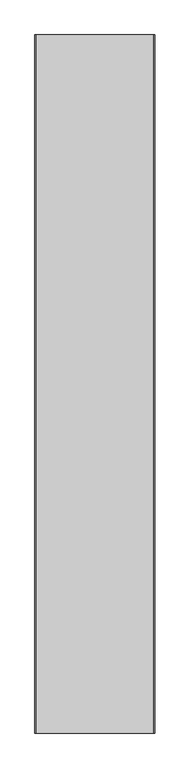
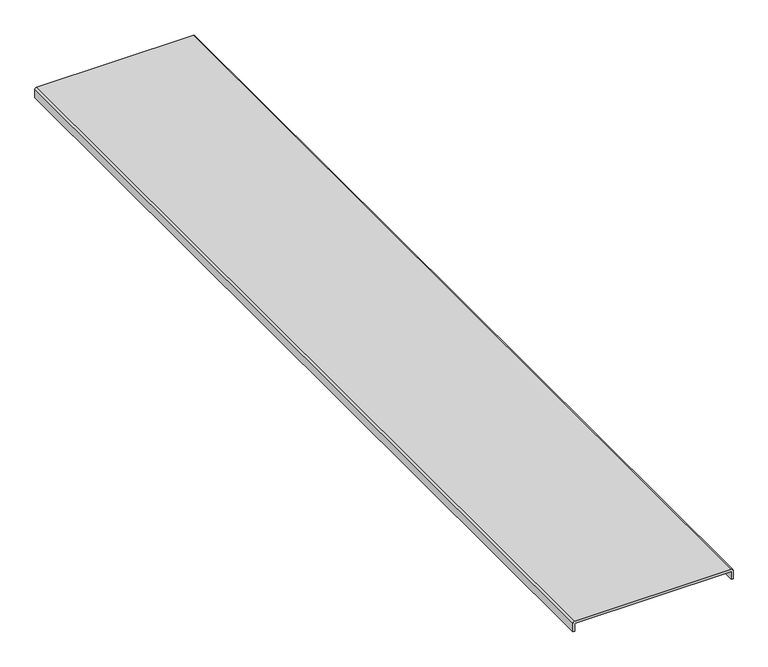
"""IFC4 building model written with IfcOpenShell, lengths in millimetres: proxy geometry, Cable_Tray_Cover_TWT_Basorcanal : Basorcanal TWT 300."""

from ifc_helpers import new_model, si_unit, point, frame, frame_2d, origin, place, context, project, spatial, polyline, circle_curve, trimmed, segment, composite_curve, outline, extrude, source, transform, mapped, element, save


def generic_models_717cf7ea(model_context):
    return source(origin(), model_context, "Body", "SweptSolid", [
        extrude(outline(composite_curve([segment(trimmed(circle_curve(frame_2d((-0.5, -149.5)), 0.5), [point((-0.5, -150.0))], [point((0.0, -149.5))], True, "CARTESIAN"), True, "CONTINUOUS"), segment(polyline([(0.0, -149.5), (0.0, 149.5)]), True, "CONTINUOUS"), segment(trimmed(circle_curve(frame_2d((-0.5, 149.5)), 0.5), [point((0.0, 149.5))], [point((-0.5, 150.0))], True, "CARTESIAN"), True, "CONTINUOUS"), segment(polyline([(-0.5, 150.0), (-16.0, 150.0), (-16.0, 154.0), (0.9268922, 154.0)]), True, "CONTINUOUS"), segment(trimmed(circle_curve(frame_2d((0.9268922, 150.9268922)), 3.0731078), [point((0.9268922, 154.0))], [point((4.0, 150.9268922))], False, "CARTESIAN"), True, "CONTINUOUS"), segment(polyline([(4.0, 150.9268922), (4.0, -150.6770801)]), True, "CONTINUOUS"), segment(trimmed(circle_curve(frame_2d((0.6770801, -150.6770801)), 3.3229199), [point((4.0, -150.6770801))], [point((0.6770801, -154.0))], False, "CARTESIAN"), True, "CONTINUOUS"), segment(polyline([(0.6770801, -154.0), (-16.0, -154.0), (-16.0, -150.0), (-0.5, -150.0)]), True, "CONTINUOUS")], self_intersect=False)), frame((0.0, 0.0, 0.0), z_axis=(0.0, 1.0, 0.0), x_axis=(0.0, 0.0, 1.0)), (0.0, 0.0, 1.0), 1790.7),
    ])


if __name__ == "__main__":
    model = new_model("IFC4")
    model_context = context("Model", 3, world=origin())
    ifc_project = project(units=[si_unit("LENGTHUNIT", "METRE", prefix="MILLI")], contexts=[model_context])
    site = spatial("IfcSite", under=ifc_project)
    building = spatial("IfcBuilding", under=site)
    placement = place(None, origin())
    generic_models_shape = generic_models_717cf7ea(model_context)
    element("IfcBuildingElementProxy", 1, Name="Cable_Tray_Cover_TWT_Basorcanal : Basorcanal TWT 300", ObjectType="Cable_Tray_Cover_TWT_Basorcanal : Basorcanal TWT 300", at=placement, inside=building, context=model_context, shape_type="MappedRepresentation", body=[
        mapped(generic_models_shape, transform((0.0, 0.0, 0.0), x_axis=(1.0, 0.0, 0.0), y_axis=(0.0, 1.0, 0.0), z_axis=(0.0, 0.0, 1.0))),
    ])
    save(model, "model.ifc")
